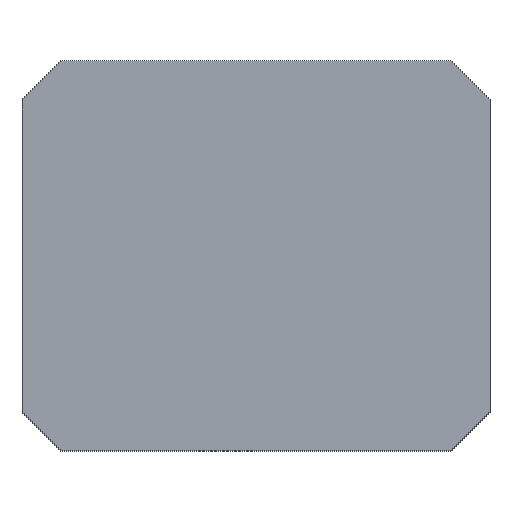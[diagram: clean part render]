
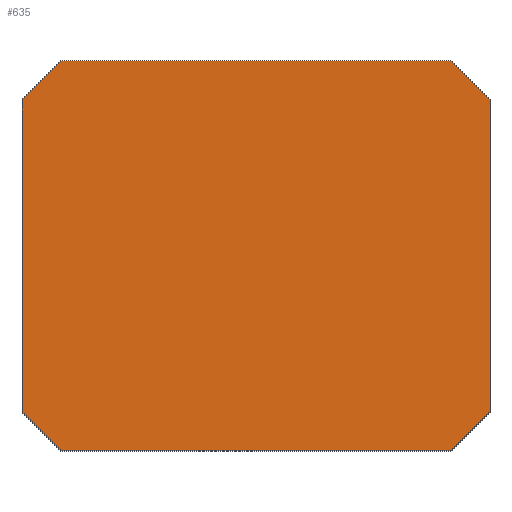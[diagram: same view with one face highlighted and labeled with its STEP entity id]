
A CAD part, top view. The second image highlights one B-rep face of the part: STEP entity #635.
In plain terms, the highlighted planar face has unit normal (0, 0, 1).
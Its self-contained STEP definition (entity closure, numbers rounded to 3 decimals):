
#22 = VERTEX_POINT('',#23);
#23 = CARTESIAN_POINT('',(6.,-4.,22.795));
#32 = PLANE('',#33);
#33 = AXIS2_PLACEMENT_3D('',#34,#35,#36);
#34 = CARTESIAN_POINT('',(6.,-4.,22.795));
#35 = DIRECTION('',(1.,0.,0.));
#36 = DIRECTION('',(0.,1.,0.));
#44 = PLANE('',#45);
#45 = AXIS2_PLACEMENT_3D('',#46,#47,#48);
#46 = CARTESIAN_POINT('',(5.,-5.,22.795));
#47 = DIRECTION('',(0.707,-0.707,0.));
#48 = DIRECTION('',(0.707,0.707,0.));
#85 = VERTEX_POINT('',#86);
#86 = CARTESIAN_POINT('',(6.,4.,22.795));
#100 = PLANE('',#101);
#101 = AXIS2_PLACEMENT_3D('',#102,#103,#104);
#102 = CARTESIAN_POINT('',(6.,4.,22.795));
#103 = DIRECTION('',(0.707,0.707,0.)
  );
#104 = DIRECTION('',(-0.707,0.707,0.)
  );
#112 = EDGE_CURVE('',#22,#85,#113,.T.);
#113 = SURFACE_CURVE('',#114,(#118,#125),.PCURVE_S1.);
#114 = LINE('',#115,#116);
#115 = CARTESIAN_POINT('',(6.,-4.,22.795));
#116 = VECTOR('',#117,1.);
#117 = DIRECTION('',(0.,1.,0.));
#118 = PCURVE('',#32,#119);
#119 = DEFINITIONAL_REPRESENTATION('',(#120),#124);
#120 = LINE('',#121,#122);
#121 = CARTESIAN_POINT('',(0.,0.));
#122 = VECTOR('',#123,1.);
#123 = DIRECTION('',(1.,0.));
#124 = ( GEOMETRIC_REPRESENTATION_CONTEXT(2) 
PARAMETRIC_REPRESENTATION_CONTEXT() REPRESENTATION_CONTEXT('2D SPACE',''
  ) );
#125 = PCURVE('',#126,#131);
#126 = PLANE('',#127);
#127 = AXIS2_PLACEMENT_3D('',#128,#129,#130);
#128 = CARTESIAN_POINT('',(-100.,-100.,22.795));
#129 = DIRECTION('',(0.,0.,-1.));
#130 = DIRECTION('',(1.,0.,0.));
#131 = DEFINITIONAL_REPRESENTATION('',(#132),#136);
#132 = LINE('',#133,#134);
#133 = CARTESIAN_POINT('',(106.,-96.));
#134 = VECTOR('',#135,1.);
#135 = DIRECTION('',(0.,-1.));
#136 = ( GEOMETRIC_REPRESENTATION_CONTEXT(2) 
PARAMETRIC_REPRESENTATION_CONTEXT() REPRESENTATION_CONTEXT('2D SPACE',''
  ) );
#166 = VERTEX_POINT('',#167);
#167 = CARTESIAN_POINT('',(5.,5.,22.795));
#181 = PLANE('',#182);
#182 = AXIS2_PLACEMENT_3D('',#183,#184,#185);
#183 = CARTESIAN_POINT('',(5.,5.,22.795));
#184 = DIRECTION('',(0.,1.,0.));
#185 = DIRECTION('',(-1.,0.,0.));
#193 = EDGE_CURVE('',#85,#166,#194,.T.);
#194 = SURFACE_CURVE('',#195,(#199,#206),.PCURVE_S1.);
#195 = LINE('',#196,#197);
#196 = CARTESIAN_POINT('',(6.,4.,22.795));
#197 = VECTOR('',#198,1.);
#198 = DIRECTION('',(-0.707,0.707,0.)
  );
#199 = PCURVE('',#100,#200);
#200 = DEFINITIONAL_REPRESENTATION('',(#201),#205);
#201 = LINE('',#202,#203);
#202 = CARTESIAN_POINT('',(0.,0.));
#203 = VECTOR('',#204,1.);
#204 = DIRECTION('',(1.,0.));
#205 = ( GEOMETRIC_REPRESENTATION_CONTEXT(2) 
PARAMETRIC_REPRESENTATION_CONTEXT() REPRESENTATION_CONTEXT('2D SPACE',''
  ) );
#206 = PCURVE('',#126,#207);
#207 = DEFINITIONAL_REPRESENTATION('',(#208),#212);
#208 = LINE('',#209,#210);
#209 = CARTESIAN_POINT('',(106.,-104.));
#210 = VECTOR('',#211,1.);
#211 = DIRECTION('',(-0.707,-0.707));
#212 = ( GEOMETRIC_REPRESENTATION_CONTEXT(2) 
PARAMETRIC_REPRESENTATION_CONTEXT() REPRESENTATION_CONTEXT('2D SPACE',''
  ) );
#242 = VERTEX_POINT('',#243);
#243 = CARTESIAN_POINT('',(-5.,5.,22.795));
#257 = PLANE('',#258);
#258 = AXIS2_PLACEMENT_3D('',#259,#260,#261);
#259 = CARTESIAN_POINT('',(-5.,5.,22.795));
#260 = DIRECTION('',(-0.707,0.707,0.)
  );
#261 = DIRECTION('',(-0.707,-0.707,0.)
  );
#269 = EDGE_CURVE('',#166,#242,#270,.T.);
#270 = SURFACE_CURVE('',#271,(#275,#282),.PCURVE_S1.);
#271 = LINE('',#272,#273);
#272 = CARTESIAN_POINT('',(5.,5.,22.795));
#273 = VECTOR('',#274,1.);
#274 = DIRECTION('',(-1.,0.,0.));
#275 = PCURVE('',#181,#276);
#276 = DEFINITIONAL_REPRESENTATION('',(#277),#281);
#277 = LINE('',#278,#279);
#278 = CARTESIAN_POINT('',(0.,0.));
#279 = VECTOR('',#280,1.);
#280 = DIRECTION('',(1.,0.));
#281 = ( GEOMETRIC_REPRESENTATION_CONTEXT(2) 
PARAMETRIC_REPRESENTATION_CONTEXT() REPRESENTATION_CONTEXT('2D SPACE',''
  ) );
#282 = PCURVE('',#126,#283);
#283 = DEFINITIONAL_REPRESENTATION('',(#284),#288);
#284 = LINE('',#285,#286);
#285 = CARTESIAN_POINT('',(105.,-105.));
#286 = VECTOR('',#287,1.);
#287 = DIRECTION('',(-1.,0.));
#288 = ( GEOMETRIC_REPRESENTATION_CONTEXT(2) 
PARAMETRIC_REPRESENTATION_CONTEXT() REPRESENTATION_CONTEXT('2D SPACE',''
  ) );
#318 = VERTEX_POINT('',#319);
#319 = CARTESIAN_POINT('',(-6.,4.,22.795));
#333 = PLANE('',#334);
#334 = AXIS2_PLACEMENT_3D('',#335,#336,#337);
#335 = CARTESIAN_POINT('',(-6.,4.,22.795));
#336 = DIRECTION('',(-1.,0.,0.));
#337 = DIRECTION('',(0.,-1.,0.));
#345 = EDGE_CURVE('',#242,#318,#346,.T.);
#346 = SURFACE_CURVE('',#347,(#351,#358),.PCURVE_S1.);
#347 = LINE('',#348,#349);
#348 = CARTESIAN_POINT('',(-5.,5.,22.795));
#349 = VECTOR('',#350,1.);
#350 = DIRECTION('',(-0.707,-0.707,0.)
  );
#351 = PCURVE('',#257,#352);
#352 = DEFINITIONAL_REPRESENTATION('',(#353),#357);
#353 = LINE('',#354,#355);
#354 = CARTESIAN_POINT('',(0.,0.));
#355 = VECTOR('',#356,1.);
#356 = DIRECTION('',(1.,0.));
#357 = ( GEOMETRIC_REPRESENTATION_CONTEXT(2) 
PARAMETRIC_REPRESENTATION_CONTEXT() REPRESENTATION_CONTEXT('2D SPACE',''
  ) );
#358 = PCURVE('',#126,#359);
#359 = DEFINITIONAL_REPRESENTATION('',(#360),#364);
#360 = LINE('',#361,#362);
#361 = CARTESIAN_POINT('',(95.,-105.));
#362 = VECTOR('',#363,1.);
#363 = DIRECTION('',(-0.707,0.707));
#364 = ( GEOMETRIC_REPRESENTATION_CONTEXT(2) 
PARAMETRIC_REPRESENTATION_CONTEXT() REPRESENTATION_CONTEXT('2D SPACE',''
  ) );
#394 = VERTEX_POINT('',#395);
#395 = CARTESIAN_POINT('',(-6.,-4.,22.795));
#409 = PLANE('',#410);
#410 = AXIS2_PLACEMENT_3D('',#411,#412,#413);
#411 = CARTESIAN_POINT('',(-6.,-4.,22.795));
#412 = DIRECTION('',(-0.707,-0.707,0.)
  );
#413 = DIRECTION('',(0.707,-0.707,0.)
  );
#421 = EDGE_CURVE('',#318,#394,#422,.T.);
#422 = SURFACE_CURVE('',#423,(#427,#434),.PCURVE_S1.);
#423 = LINE('',#424,#425);
#424 = CARTESIAN_POINT('',(-6.,4.,22.795));
#425 = VECTOR('',#426,1.);
#426 = DIRECTION('',(0.,-1.,0.));
#427 = PCURVE('',#333,#428);
#428 = DEFINITIONAL_REPRESENTATION('',(#429),#433);
#429 = LINE('',#430,#431);
#430 = CARTESIAN_POINT('',(0.,0.));
#431 = VECTOR('',#432,1.);
#432 = DIRECTION('',(1.,0.));
#433 = ( GEOMETRIC_REPRESENTATION_CONTEXT(2) 
PARAMETRIC_REPRESENTATION_CONTEXT() REPRESENTATION_CONTEXT('2D SPACE',''
  ) );
#434 = PCURVE('',#126,#435);
#435 = DEFINITIONAL_REPRESENTATION('',(#436),#440);
#436 = LINE('',#437,#438);
#437 = CARTESIAN_POINT('',(94.,-104.));
#438 = VECTOR('',#439,1.);
#439 = DIRECTION('',(0.,1.));
#440 = ( GEOMETRIC_REPRESENTATION_CONTEXT(2) 
PARAMETRIC_REPRESENTATION_CONTEXT() REPRESENTATION_CONTEXT('2D SPACE',''
  ) );
#470 = VERTEX_POINT('',#471);
#471 = CARTESIAN_POINT('',(-5.,-5.,22.795));
#485 = PLANE('',#486);
#486 = AXIS2_PLACEMENT_3D('',#487,#488,#489);
#487 = CARTESIAN_POINT('',(-5.,-5.,22.795));
#488 = DIRECTION('',(0.,-1.,0.));
#489 = DIRECTION('',(1.,0.,0.));
#497 = EDGE_CURVE('',#394,#470,#498,.T.);
#498 = SURFACE_CURVE('',#499,(#503,#510),.PCURVE_S1.);
#499 = LINE('',#500,#501);
#500 = CARTESIAN_POINT('',(-6.,-4.,22.795));
#501 = VECTOR('',#502,1.);
#502 = DIRECTION('',(0.707,-0.707,0.)
  );
#503 = PCURVE('',#409,#504);
#504 = DEFINITIONAL_REPRESENTATION('',(#505),#509);
#505 = LINE('',#506,#507);
#506 = CARTESIAN_POINT('',(0.,0.));
#507 = VECTOR('',#508,1.);
#508 = DIRECTION('',(1.,0.));
#509 = ( GEOMETRIC_REPRESENTATION_CONTEXT(2) 
PARAMETRIC_REPRESENTATION_CONTEXT() REPRESENTATION_CONTEXT('2D SPACE',''
  ) );
#510 = PCURVE('',#126,#511);
#511 = DEFINITIONAL_REPRESENTATION('',(#512),#516);
#512 = LINE('',#513,#514);
#513 = CARTESIAN_POINT('',(94.,-96.));
#514 = VECTOR('',#515,1.);
#515 = DIRECTION('',(0.707,0.707));
#516 = ( GEOMETRIC_REPRESENTATION_CONTEXT(2) 
PARAMETRIC_REPRESENTATION_CONTEXT() REPRESENTATION_CONTEXT('2D SPACE',''
  ) );
#546 = VERTEX_POINT('',#547);
#547 = CARTESIAN_POINT('',(5.,-5.,22.795));
#568 = EDGE_CURVE('',#470,#546,#569,.T.);
#569 = SURFACE_CURVE('',#570,(#574,#581),.PCURVE_S1.);
#570 = LINE('',#571,#572);
#571 = CARTESIAN_POINT('',(-5.,-5.,22.795));
#572 = VECTOR('',#573,1.);
#573 = DIRECTION('',(1.,0.,0.));
#574 = PCURVE('',#485,#575);
#575 = DEFINITIONAL_REPRESENTATION('',(#576),#580);
#576 = LINE('',#577,#578);
#577 = CARTESIAN_POINT('',(0.,0.));
#578 = VECTOR('',#579,1.);
#579 = DIRECTION('',(1.,0.));
#580 = ( GEOMETRIC_REPRESENTATION_CONTEXT(2) 
PARAMETRIC_REPRESENTATION_CONTEXT() REPRESENTATION_CONTEXT('2D SPACE',''
  ) );
#581 = PCURVE('',#126,#582);
#582 = DEFINITIONAL_REPRESENTATION('',(#583),#587);
#583 = LINE('',#584,#585);
#584 = CARTESIAN_POINT('',(95.,-95.));
#585 = VECTOR('',#586,1.);
#586 = DIRECTION('',(1.,0.));
#587 = ( GEOMETRIC_REPRESENTATION_CONTEXT(2) 
PARAMETRIC_REPRESENTATION_CONTEXT() REPRESENTATION_CONTEXT('2D SPACE',''
  ) );
#615 = EDGE_CURVE('',#546,#22,#616,.T.);
#616 = SURFACE_CURVE('',#617,(#621,#628),.PCURVE_S1.);
#617 = LINE('',#618,#619);
#618 = CARTESIAN_POINT('',(5.,-5.,22.795));
#619 = VECTOR('',#620,1.);
#620 = DIRECTION('',(0.707,0.707,0.)
  );
#621 = PCURVE('',#44,#622);
#622 = DEFINITIONAL_REPRESENTATION('',(#623),#627);
#623 = LINE('',#624,#625);
#624 = CARTESIAN_POINT('',(0.,0.));
#625 = VECTOR('',#626,1.);
#626 = DIRECTION('',(1.,0.));
#627 = ( GEOMETRIC_REPRESENTATION_CONTEXT(2) 
PARAMETRIC_REPRESENTATION_CONTEXT() REPRESENTATION_CONTEXT('2D SPACE',''
  ) );
#628 = PCURVE('',#126,#629);
#629 = DEFINITIONAL_REPRESENTATION('',(#630),#634);
#630 = LINE('',#631,#632);
#631 = CARTESIAN_POINT('',(105.,-95.));
#632 = VECTOR('',#633,1.);
#633 = DIRECTION('',(0.707,-0.707));
#634 = ( GEOMETRIC_REPRESENTATION_CONTEXT(2) 
PARAMETRIC_REPRESENTATION_CONTEXT() REPRESENTATION_CONTEXT('2D SPACE',''
  ) );
#635 = ADVANCED_FACE('',(#636),#126,.F.);
#636 = FACE_BOUND('',#637,.T.);
#637 = EDGE_LOOP('',(#638,#639,#640,#641,#642,#643,#644,#645));
#638 = ORIENTED_EDGE('',*,*,#112,.T.);
#639 = ORIENTED_EDGE('',*,*,#193,.T.);
#640 = ORIENTED_EDGE('',*,*,#269,.T.);
#641 = ORIENTED_EDGE('',*,*,#345,.T.);
#642 = ORIENTED_EDGE('',*,*,#421,.T.);
#643 = ORIENTED_EDGE('',*,*,#497,.T.);
#644 = ORIENTED_EDGE('',*,*,#568,.T.);
#645 = ORIENTED_EDGE('',*,*,#615,.T.);
